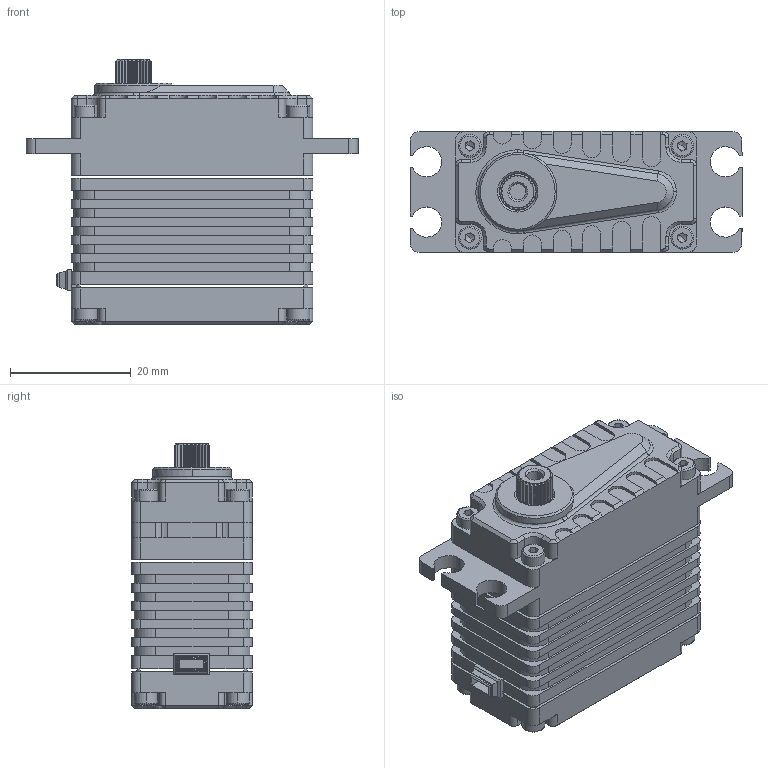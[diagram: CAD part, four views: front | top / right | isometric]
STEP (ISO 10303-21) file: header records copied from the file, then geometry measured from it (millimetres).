
FILE_DESCRIPTION (( 'STEP AP214' ), '1' );
FILE_NAME ('X20-12-M-835_DM.STEP', '2020-12-22T07:24:27', ( '微软用户' ), ( '微软中国' ), 'SwSTEP 2.0', 'SolidWorks 2016', '' );
FILE_SCHEMA (( 'AUTOMOTIVE_DESIGN' ));
Length unit declared in the file: millimetre
Products named in the file (2): X20-12-M-835_DM
Bounding box: 55 x 20 x 44 mm (x, y, z)
Surface area: 8196.2 mm2 (no closed solid volume)
Topology: 0 solids, 16 shells, 629 faces, 1825 edges, 1186 vertices
Faces by surface type: plane 345, cylinder 190, cone 73, torus 16, bspline 5
Entity records: 27668 total; most frequent: CARTESIAN_POINT 3968, DIRECTION 3594, ORIENTED_EDGE 3371, EDGE_CURVE 1809, AXIS2_PLACEMENT_3D 1218, VERTEX_POINT 1186, VECTOR 1158, LINE 1158
